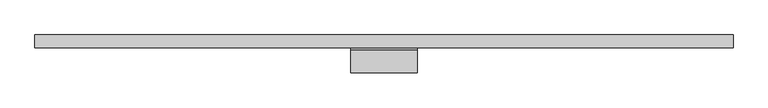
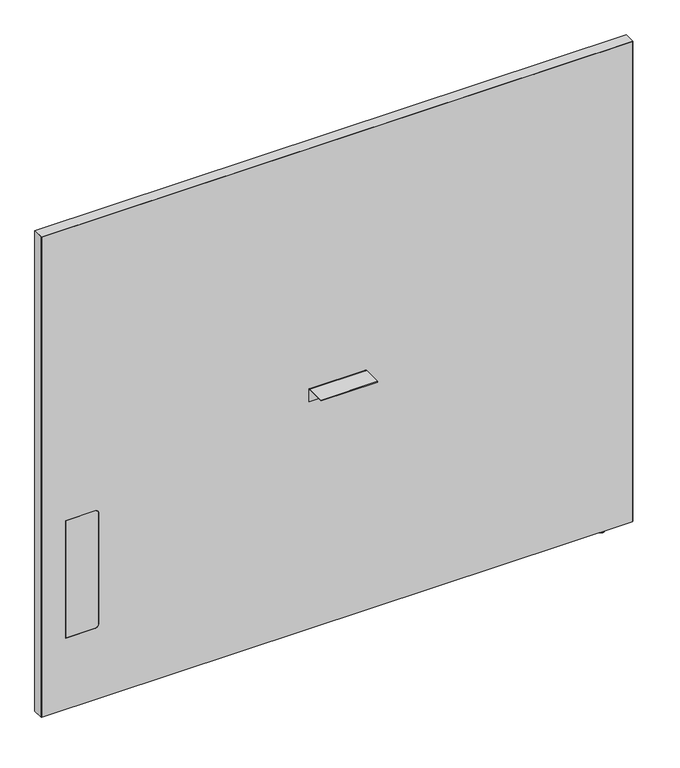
"""IFC4 building model written with IfcOpenShell, lengths in millimetres: furniture geometry, Steelcase - Answer Solution - Boundary Screen - Straight - Single Sided : 54H x 63W."""

import ifcopenshell
import ifcopenshell.guid

model = None  # the IFC model being written
_history = None  # IfcOwnerHistory: only IFC2X3 demands one
_inside = {}  # id of a spatial element -> (the spatial element, [elements in it])
_under = {}  # id of a project, library or spatial element -> (it, [spatial elements below it])
_declared = {}  # id of a project -> (the project, [libraries it declares])
_typed = {}  # id of a type object -> (the type object, [elements of that type])
_made_of = {}  # id of a material, layer set ... -> (it, [elements and type objects made of it])


def new_model(schema):
    """Start an empty IFC model of exactly this schema.

    Asked for "IFC4X3", IfcOpenShell would pick the latest addendum, in which some entities
    have other attributes; the version numbers below select the first issue.
    IFC2X3 requires an IfcOwnerHistory on every rooted entity: one is made here for all.
    """
    global model, _history
    if schema == "IFC4X3":
        model = ifcopenshell.file(schema_version=(4, 3, 0, 0))
    else:
        model = ifcopenshell.file(schema=schema)
    _inside.clear()
    _under.clear()
    _declared.clear()
    _typed.clear()
    _made_of.clear()
    _history = None
    if model.schema == "IFC2X3":
        org = make("IfcOrganization", Name="unknown")
        user = make(
            "IfcPersonAndOrganization",
            ThePerson=make("IfcPerson", FamilyName="unknown"),
            TheOrganization=org,
        )
        app = make(
            "IfcApplication",
            ApplicationDeveloper=org,
            Version="unknown",
            ApplicationFullName="unknown",
            ApplicationIdentifier="unknown",
        )
        _history = make(
            "IfcOwnerHistory",
            OwningUser=user,
            OwningApplication=app,
            ChangeAction="ADDED",
            CreationDate=0,
        )
    return model


def make(cls, **values):
    """One entity of the class cls with the attributes given. An attribute that is None is left unset."""
    return model.create_entity(
        cls, **{name: value for name, value in values.items() if value is not None}
    )


def rooted(cls, **values):
    """An entity with a GlobalId (a new one), such as an element, a storey or a relation."""
    return make(cls, GlobalId=ifcopenshell.guid.new(), OwnerHistory=_history, **values)


def si_unit(unit_type, name, prefix=None):
    """IfcSIUnit, for example si_unit("LENGTHUNIT", "METRE", prefix="MILLI")."""
    return make("IfcSIUnit", UnitType=unit_type, Prefix=prefix, Name=name)


def assignment(units):
    """IfcUnitAssignment: the units of a project."""
    return None if units is None else make("IfcUnitAssignment", Units=units)


def point(xyz):
    """IfcCartesianPoint."""
    return None if xyz is None else make("IfcCartesianPoint", Coordinates=xyz)


def direction(xyz):
    """IfcDirection."""
    return None if xyz is None else make("IfcDirection", DirectionRatios=xyz)


def frame(location, z_axis=None, x_axis=None):
    """IfcAxis2Placement3D, a coordinate frame: its origin and axes. An axis left out is left unset."""
    return make(
        "IfcAxis2Placement3D",
        Location=point(location),
        Axis=direction(z_axis),
        RefDirection=direction(x_axis),
    )


def frame_2d(location, x_axis=None):
    """IfcAxis2Placement2D, a coordinate frame in the plane: its origin and x axis."""
    return make(
        "IfcAxis2Placement2D", Location=point(location), RefDirection=direction(x_axis)
    )


def origin():
    """The frame at (0, 0, 0) with its axes left unset."""
    return frame((0.0, 0.0, 0.0))


def place(relative_to, where):
    """IfcLocalPlacement: puts the frame where relative to a parent placement (None: the world)."""
    return make(
        "IfcLocalPlacement", PlacementRelTo=relative_to, RelativePlacement=where
    )


def context(
    kind, dimensions, precision=None, world=None, true_north=None, identifier=None
):
    """IfcGeometricRepresentationContext, for example the 3D "Model" context."""
    return make(
        "IfcGeometricRepresentationContext",
        ContextIdentifier=identifier,
        ContextType=kind,
        CoordinateSpaceDimension=dimensions,
        Precision=precision,
        WorldCoordinateSystem=world,
        TrueNorth=true_north,
    )


def project(units=None, contexts=None):
    """IfcProject with its units and contexts."""
    return rooted(
        "IfcProject",
        Name="project",
        RepresentationContexts=contexts,
        UnitsInContext=assignment(units),
    )


def spatial(cls, under=None, at=None, **own):
    """A site, building, storey or space (cls), placed at a placement, below another one or the project."""
    s = rooted(cls, ObjectPlacement=at, **own)
    if under is not None:
        _under.setdefault(under.id(), (under, []))[1].append(s)
    return s


def polyline(points):
    """IfcPolyline through the points."""
    return make("IfcPolyline", Points=[point(p) for p in points])


def circle_curve(where, radius):
    """IfcCircle in the frame where."""
    return make("IfcCircle", Position=where, Radius=radius)


def ellipse_curve(where, semi_axis1, semi_axis2):
    """IfcEllipse in the frame where."""
    return make(
        "IfcEllipse", Position=where, SemiAxis1=semi_axis1, SemiAxis2=semi_axis2
    )


def trimmed(basis, trim1, trim2, sense, master):
    """IfcTrimmedCurve: the piece of a basis curve between two trims."""
    return make(
        "IfcTrimmedCurve",
        BasisCurve=basis,
        Trim1=trim1,
        Trim2=trim2,
        SenseAgreement=sense,
        MasterRepresentation=master,
    )


def segment(curve, same_sense, transition):
    """IfcCompositeCurveSegment."""
    return make(
        "IfcCompositeCurveSegment",
        Transition=transition,
        SameSense=same_sense,
        ParentCurve=curve,
    )


def composite_curve(segments, self_intersect=None):
    """IfcCompositeCurve: segments joined end to end."""
    return make("IfcCompositeCurve", Segments=segments, SelfIntersect=self_intersect)


def outline(outer, holes=None, kind="AREA"):
    """IfcArbitraryClosedProfileDef: a profile drawn as a closed curve; with holes, ...WithVoids."""
    if holes is None:
        return make("IfcArbitraryClosedProfileDef", ProfileType=kind, OuterCurve=outer)
    return make(
        "IfcArbitraryProfileDefWithVoids",
        ProfileType=kind,
        OuterCurve=outer,
        InnerCurves=holes,
    )


def extrude(swept, where, along, depth):
    """IfcExtrudedAreaSolid: the profile swept, set in the frame where, extruded along a direction by depth."""
    return make(
        "IfcExtrudedAreaSolid",
        SweptArea=swept,
        Position=where,
        ExtrudedDirection=direction(along),
        Depth=depth,
    )


def shape(context_of_items, identifier, shape_type, items):
    """IfcShapeRepresentation: the items that make up one representation, for example the "Body"."""
    return make(
        "IfcShapeRepresentation",
        ContextOfItems=context_of_items,
        RepresentationIdentifier=identifier,
        RepresentationType=shape_type,
        Items=items,
    )


def source(mapping_origin, context_of_items, identifier, shape_type, items):
    """IfcRepresentationMap: a shape defined once, which mapped items show again and again."""
    return make(
        "IfcRepresentationMap",
        MappingOrigin=mapping_origin,
        MappedRepresentation=shape(context_of_items, identifier, shape_type, items),
    )


def transform(
    local_origin,
    x_axis=None,
    y_axis=None,
    z_axis=None,
    scale=None,
    scale2=None,
    scale3=None,
    uniform=True,
):
    """IfcCartesianTransformationOperator3D, or its non-uniform kind. x_axis, y_axis, z_axis: its Axis1, 2, 3."""
    if uniform:
        return make(
            "IfcCartesianTransformationOperator3D",
            Axis1=direction(x_axis),
            Axis2=direction(y_axis),
            LocalOrigin=point(local_origin),
            Scale=scale,
            Axis3=direction(z_axis),
        )
    return make(
        "IfcCartesianTransformationOperator3DnonUniform",
        Axis1=direction(x_axis),
        Axis2=direction(y_axis),
        LocalOrigin=point(local_origin),
        Scale=scale,
        Axis3=direction(z_axis),
        Scale2=scale2,
        Scale3=scale3,
    )


def mapped(mapping_source, mapping_target):
    """IfcMappedItem: shows the shape of a source again, moved by a transform."""
    return make(
        "IfcMappedItem", MappingSource=mapping_source, MappingTarget=mapping_target
    )


def made_of(thing, what):
    """Note that an element or type object is made of a material, layer set ...; save() writes the relation."""
    if what is not None:
        _made_of.setdefault(what.id(), (what, []))[1].append(thing)
    return thing


def element(
    cls,
    number,
    at=None,
    inside=None,
    cuts=None,
    type_object=None,
    material=None,
    context=None,
    identifier="Body",
    shape_type=None,
    held_by="IfcProductDefinitionShape",
    body=None,
    shapes=None,
    **own,
):
    """One element of the class cls, such as IfcWall. Its Tag is "e" and its number.

    at: its placement. inside: the storey or other place that contains it. cuts: it is an
    opening in that element (IfcRelVoidsElement). A single representation is given by context,
    identifier, shape_type and body (its items); several are given by shapes. held_by: the class
    of the entity that holds the representations. save() writes the other relations.
    """
    e = rooted(cls, Tag="e%d" % number, ObjectPlacement=at, **own)
    if body is not None:
        shapes = [shape(context, identifier, shape_type, body)]
    if shapes is not None:
        e.Representation = make(held_by, Representations=shapes)
    if inside is not None:
        _inside.setdefault(inside.id(), (inside, []))[1].append(e)
    if cuts is not None:
        rooted(
            "IfcRelVoidsElement", RelatingBuildingElement=cuts, RelatedOpeningElement=e
        )
    if type_object is not None:
        _typed.setdefault(type_object.id(), (type_object, []))[1].append(e)
    return made_of(e, material)


def aggregate(whole, parts):
    """IfcRelAggregates: a whole, such as a stair, and the parts it consists of."""
    return rooted("IfcRelAggregates", RelatingObject=whole, RelatedObjects=parts)


def save(model, path):
    """Write the relations noted so far, then the file.

    IfcRelAggregates (storeys below a building ...), IfcRelContainedInSpatialStructure (elements
    in a storey), IfcRelDefinesByType, IfcRelAssociatesMaterial and IfcRelDeclares: one each for
    every whole, place, type object, material and project.
    """
    for whole, parts in _under.values():
        aggregate(whole, parts)
    for where, things in _inside.values():
        rooted(
            "IfcRelContainedInSpatialStructure",
            RelatedElements=things,
            RelatingStructure=where,
        )
    for kind, things in _typed.values():
        rooted("IfcRelDefinesByType", RelatedObjects=things, RelatingType=kind)
    for what, things in _made_of.values():
        rooted("IfcRelAssociatesMaterial", RelatedObjects=things, RelatingMaterial=what)
    for by, libraries in _declared.values():
        rooted("IfcRelDeclares", RelatingContext=by, RelatedDefinitions=libraries)
    model.write(path)


def plane_surface(at):
    """IfcPlane: the flat surface through the origin of the frame at, square to its z axis."""
    return make("IfcPlane", Position=at)


def cylinder_surface(at, radius):
    """IfcCylindricalSurface: all points at the distance radius from the z axis of the frame at."""
    return make("IfcCylindricalSurface", Position=at, Radius=radius)


def revolved_surface(curve, axis_point, axis_direction):
    """IfcSurfaceOfRevolution: the curve turned about the line through axis_point along axis_direction."""
    return make(
        "IfcSurfaceOfRevolution",
        SweptCurve=make("IfcArbitraryOpenProfileDef", ProfileType="CURVE", Curve=curve),
        AxisPosition=make("IfcAxis1Placement", Location=point(axis_point), Axis=direction(axis_direction)),
    )


def advanced_brep(points, edges, surfaces, faces):
    """IfcAdvancedBrep: a solid bounded by faces that lie on surfaces and meet in shared edges.

    An edge is (start, end): straight between two places in points (the first is 0);
    or (start, end, curve); or (start, end, curve, False) where it runs against its curve.
    A face is (place in surfaces, loops), or (place, loops, False) where it looks against
    its surface's normal. A loop lists edges by number (the first is 1), with a minus sign
    where the edge is run from its end to its start. The first loop is the outer one.
    """
    corners = [point(p) for p in points]
    vertices = [make("IfcVertexPoint", VertexGeometry=c) for c in corners]
    made = []
    for start, end, *more in edges:
        made.append(
            make(
                "IfcEdgeCurve",
                EdgeStart=vertices[start],
                EdgeEnd=vertices[end],
                EdgeGeometry=more[0] if more else make("IfcPolyline", Points=[corners[start], corners[end]]),
                SameSense=more[1] if len(more) > 1 else True,
            )
        )
    hull = []
    for where, loops, *sense in faces:
        bounds = []
        for j, loop in enumerate(loops):
            ring = [make("IfcOrientedEdge", EdgeElement=made[abs(k) - 1], Orientation=k > 0) for k in loop]
            bounds.append(
                make(
                    "IfcFaceOuterBound" if j == 0 else "IfcFaceBound",
                    Bound=make("IfcEdgeLoop", EdgeList=ring),
                    Orientation=True,
                )
            )
        hull.append(make("IfcAdvancedFace", Bounds=bounds, FaceSurface=surfaces[where], SameSense=sense[0] if sense else True))
    return make("IfcAdvancedBrep", Outer=make("IfcClosedShell", CfsFaces=hull))


def furniture_692955da(model_context):
    return source(origin(), model_context, "Body", "SolidModel", [
        extrude(outline(composite_curve([segment(polyline([(-86.8398151, 696.4680019), (-86.8398151, 698.5), (-34.9450855, 698.5)]), True, "CONTINUOUS"), segment(trimmed(circle_curve(frame_2d((-34.9450855, 693.2447477)), 5.2552523), [point((-34.9450855, 698.5))], [point((-29.6898332, 693.2447477))], False, "CARTESIAN"), True, "CONTINUOUS"), segment(polyline([(-29.6898332, 693.2447477), (-29.6898332, 660.4), (-31.7218162, 660.4), (-31.7218162, 693.0058743)]), True, "CONTINUOUS"), segment(trimmed(circle_curve(frame_2d((-35.1839438, 693.0058743)), 3.4621276), [point((-31.7218162, 693.0058743))], [point((-35.1839438, 696.4680019))], True, "CARTESIAN"), True, "CONTINUOUS"), segment(polyline([(-35.1839438, 696.4680019), (-86.8398151, 696.4680019)]), True, "CONTINUOUS")], self_intersect=False)), frame((77.4191407, 0.0, 0.0), z_axis=(1.0, 0.0, 0.0), x_axis=(0.0, 1.0, 0.0)), (0.0, 0.0, 1.0), 152.4000969),
        advanced_brep(
        [(876.5286488, -23.7588726, 9.9059849), (876.5286488, -5.9309607, 9.9059849), (876.5286488, -14.8449166, 9.9059849), (876.5286488, -23.7588726, 2.9673238), (876.5286488, -5.9309607, 2.9673238), (876.5286488, -22.7915354, 2.9673238), (876.5286488, -6.8982978, 2.9673238), (876.5286488, -22.7915354, 1.6569081), (876.5286488, -6.8982978, 1.6569081), (876.5286488, -21.1346274, 0.0), (876.5286488, -8.5552059, 0.0), (876.5286488, -14.8449166, 0.0)],
        [
            (0, 1, circle_curve(frame((876.5286488, -14.8449166, 9.9059849), z_axis=(0.0, 0.0, 1.0), x_axis=(0.0, 1.0, 0.0)), 8.913956)),
            (1, 2),
            (2, 0),
            (1, 0, circle_curve(frame((876.5286488, -14.8449166, 9.9059849), z_axis=(0.0, 0.0, 1.0), x_axis=(0.0, 1.0, 0.0)), 8.913956)),
            (3, 4, circle_curve(frame((876.5286488, -14.8449166, 2.9673238), z_axis=(0.0, 0.0, 1.0), x_axis=(0.0, 1.0, 0.0)), 8.913956)),
            (4, 1),
            (0, 3),
            (4, 3, circle_curve(frame((876.5286488, -14.8449166, 2.9673238), z_axis=(0.0, 0.0, 1.0), x_axis=(0.0, 1.0, 0.0)), 8.913956)),
            (5, 6, circle_curve(frame((876.5286488, -14.8449166, 2.9673238), z_axis=(0.0, 0.0, 1.0), x_axis=(0.0, 1.0, 0.0)), 7.9466188)),
            (6, 4),
            (3, 5),
            (6, 5, circle_curve(frame((876.5286488, -14.8449166, 2.9673238), z_axis=(0.0, 0.0, 1.0), x_axis=(0.0, 1.0, 0.0)), 7.9466188)),
            (7, 8, circle_curve(frame((876.5286488, -14.8449166, 1.6569081), z_axis=(0.0, 0.0, 1.0), x_axis=(0.0, 1.0, 0.0)), 7.9466188)),
            (8, 6),
            (5, 7),
            (8, 7, circle_curve(frame((876.5286488, -14.8449166, 1.6569081), z_axis=(0.0, 0.0, 1.0), x_axis=(0.0, 1.0, 0.0)), 7.9466188)),
            (9, 10, circle_curve(frame((876.5286488, -14.8449166, 0.0), z_axis=(0.0, 0.0, 1.0), x_axis=(0.0, 1.0, 0.0)), 6.2897107)),
            (10, 8, circle_curve(frame((876.5286488, -8.5552059, 1.6569081), z_axis=(1.0, 0.0, 0.0), x_axis=(0.0, 1.0, 0.0)), 1.6569081)),
            (7, 9, circle_curve(frame((876.5286488, -21.1346274, 1.6569081), z_axis=(1.0, 0.0, 0.0), x_axis=(0.0, -1.0, 0.0)), 1.6569081)),
            (10, 9, circle_curve(frame((876.5286488, -14.8449166, 0.0), z_axis=(0.0, 0.0, 1.0), x_axis=(0.0, 1.0, 0.0)), 6.2897107)),
            (11, 10),
            (9, 11),
        ],
        [
            plane_surface(frame((876.5286488, -14.8449166, 9.9059849), z_axis=(0.0, 0.0, 1.0), x_axis=(0.0, 1.0, 0.0))),
            cylinder_surface(frame((876.5286488, -14.8449166, 9.9059849), z_axis=(0.0, 0.0, -1.0), x_axis=(0.0, 1.0, 0.0)), 8.913956),
            plane_surface(frame((876.5286488, -14.8449166, 2.9673238), z_axis=(0.0, 0.0, -1.0), x_axis=(0.0, 1.0, 0.0))),
            cylinder_surface(frame((876.5286488, -14.8449166, 9.9059849), z_axis=(0.0, 0.0, -1.0), x_axis=(0.0, 1.0, 0.0)), 7.9466188),
            revolved_surface(trimmed(ellipse_curve(frame((876.5286488, -8.5552059, 1.6569081), z_axis=(-1.0, 0.0, 0.0), x_axis=(0.0, 1.0, 0.0)), 1.6569081, 1.6569081), [point((876.5286488, -6.8982978, 1.6569081))], [point((876.5286488, -8.5552059, 0.0))], True, "CARTESIAN"), (876.5286488, -14.8449166, 9.9059849), (0.0, 0.0, -1.0)),
            plane_surface(frame((876.5286488, -14.8449166, 0.0), z_axis=(0.0, 0.0, -1.0), x_axis=(0.0, 1.0, 0.0))),
        ],
        [
            (0, [[1, 2, 3]]),
            (0, [[4, -3, -2]]),
            (1, [[5, 6, -1, 7]]),
            (1, [[8, -7, -4, -6]]),
            (2, [[9, 10, -5, 11]]),
            (2, [[12, -11, -8, -10]]),
            (3, [[13, 14, -9, 15]]),
            (3, [[16, -15, -12, -14]]),
            (4, [[17, 18, -13, 19]]),
            (4, [[20, -19, -16, -18]]),
            (5, [[21, -17, 22]]),
            (5, [[-22, -20, -21]]),
        ],
    ),
        advanced_brep(
        [(952.6780168, 0.0, 1381.542118), (952.6780168, 0.0, 9.9059849), (-645.4902221, 0.0, 9.9059849), (-645.4902221, 0.0, 1381.542118), (952.6780168, -29.6898332, 1381.542118), (-645.4902221, -29.6898332, 1381.542118), (-645.4902221, -29.6898332, 9.9059849), (952.6780168, -29.6898332, 9.9059849), (-501.1463873, -29.6898332, 549.6162029), (-490.9863873, -29.6898332, 539.4562029), (-490.9863873, -29.6898332, 223.9362137), (-501.1463873, -29.6898332, 213.7762137), (-580.800285, -29.6898332, 213.7762137), (-580.800285, -29.6898332, 549.6162029), (-580.800285, -29.0550397, 549.6162029), (-501.1463873, -29.0550397, 549.6162029), (-580.800285, -29.0550397, 213.7762137), (-501.1463873, -29.0550397, 213.7762137), (-490.9863873, -29.0550397, 223.9362137), (-490.9863873, -29.0550397, 539.4562029)],
        [
            (0, 1),
            (1, 2),
            (2, 3),
            (3, 0),
            (4, 5),
            (5, 6),
            (6, 7),
            (7, 4),
            (8, 9, circle_curve(frame((-501.1463873, -29.6898332, 539.4562029), z_axis=(0.0, 1.0, 0.0), x_axis=(0.0, 0.0, 1.0)), 10.16)),
            (9, 10),
            (10, 11, circle_curve(frame((-501.1463873, -29.6898332, 223.9362137), z_axis=(0.0, 1.0, 0.0), x_axis=(0.0, 0.0, 1.0)), 10.16)),
            (11, 12),
            (12, 13),
            (13, 8),
            (0, 4),
            (7, 1),
            (6, 2),
            (5, 3),
            (13, 14),
            (14, 15),
            (15, 8),
            (12, 16),
            (16, 14),
            (11, 17),
            (17, 16),
            (10, 18),
            (18, 17, circle_curve(frame((-501.1463873, -29.0550397, 223.9362137), z_axis=(0.0, 1.0, 0.0), x_axis=(0.0, 0.0, 1.0)), 10.16)),
            (9, 19),
            (19, 18),
            (15, 19, circle_curve(frame((-501.1463873, -29.0550397, 539.4562029), z_axis=(0.0, 1.0, 0.0), x_axis=(0.0, 0.0, 1.0)), 10.16)),
        ],
        [
            plane_surface(frame((952.6780168, 0.0, 1381.542118), z_axis=(0.0, 1.0, 0.0), x_axis=(0.0, 0.0, -1.0))),
            plane_surface(frame((952.6780168, -29.6898332, 1381.542118), z_axis=(0.0, -1.0, 0.0), x_axis=(0.0, 0.0, 1.0))),
            plane_surface(frame((952.6780168, 0.0, 1381.542118), z_axis=(1.0, 0.0, 0.0), x_axis=(0.0, -1.0, 0.0))),
            plane_surface(frame((952.6780168, 0.0, 9.9059849), z_axis=(0.0, 0.0, -1.0), x_axis=(0.0, -1.0, 0.0))),
            plane_surface(frame((-645.4902221, 0.0, 9.9059849), z_axis=(-1.0, 0.0, 0.0), x_axis=(0.0, -1.0, 0.0))),
            plane_surface(frame((-645.4902221, 0.0, 1381.542118), z_axis=(0.0, 0.0, 1.0), x_axis=(0.0, -1.0, 0.0))),
            plane_surface(frame((-501.1463873, 0.0, 549.6162029), z_axis=(0.0, 0.0, -1.0), x_axis=(0.0, -1.0, 0.0))),
            plane_surface(frame((-580.800285, 0.0, 549.6162029), z_axis=(1.0, 0.0, 0.0), x_axis=(0.0, -1.0, 0.0))),
            plane_surface(frame((-580.800285, 0.0, 213.7762137), z_axis=(0.0, 0.0, 1.0), x_axis=(0.0, -1.0, 0.0))),
            revolved_surface(polyline([(-501.1463873, -29.6898332, 234.0962137), (-501.1463873, -29.0550397, 234.0962137)]), (-501.1463873, -29.6898332, 223.9362137), (0.0, -1.0, 0.0)),
            plane_surface(frame((-490.9863873, 0.0, 223.9362137), z_axis=(-1.0, 0.0, 0.0), x_axis=(0.0, -1.0, 0.0))),
            revolved_surface(polyline([(-501.1463873, -29.6898332, 549.6162029), (-501.1463873, -29.0550397, 549.6162029)]), (-501.1463873, -29.6898332, 539.4562029), (0.0, -1.0, 0.0)),
            plane_surface(frame((-490.9863873, -29.0550397, 629.172953), z_axis=(0.0, -1.0, 0.0), x_axis=(0.0, 0.0, 1.0))),
        ],
        [
            (0, [[1, 2, 3, 4]]),
            (1, [[5, 6, 7, 8], [9, 10, 11, 12, 13, 14]]),
            (2, [[-1, 15, -8, 16]]),
            (3, [[-2, -16, -7, 17]]),
            (4, [[-3, -17, -6, 18]]),
            (5, [[-4, -18, -5, -15]]),
            (6, [[-14, 19, 20, 21]]),
            (7, [[-13, 22, 23, -19]]),
            (8, [[-12, 24, 25, -22]]),
            (9, [[-11, 26, 27, -24]]),
            (10, [[-10, 28, 29, -26]]),
            (11, [[-9, -21, 30, -28]]),
            (12, [[-20, -23, -25, -27, -29, -30]]),
        ],
    ),
        extrude(outline(composite_curve([segment(polyline([(549.6162029, -501.1463873), (549.6162029, -580.800285), (213.7762137, -580.800285), (213.7762137, -501.1463873)]), True, "CONTINUOUS"), segment(trimmed(circle_curve(frame_2d((223.9362137, -501.1463873)), 10.16), [point((213.7762137, -501.1463873))], [point((223.9362137, -490.9863873))], False, "CARTESIAN"), True, "CONTINUOUS"), segment(polyline([(223.9362137, -490.9863873), (539.4562029, -490.9863873)]), True, "CONTINUOUS"), segment(trimmed(circle_curve(frame_2d((539.4562029, -501.1463873)), 10.16), [point((539.4562029, -490.9863873))], [point((549.6162029, -501.1463873))], False, "CARTESIAN"), True, "CONTINUOUS")], self_intersect=False)), frame((0.0, -29.6898332, 0.0), z_axis=(0.0, 1.0, 0.0), x_axis=(0.0, 0.0, 1.0)), (0.0, 0.0, 1.0), 0.6347935),
        extrude(outline(polyline([(1382.522, 953.7191891), (1382.522, -646.4808109), (9.9059849, -646.4808109), (9.9059849, -645.4902221), (1381.542118, -645.4902221), (1381.542118, 952.6780168), (9.9059849, 952.6780168), (9.9059849, 953.7191891), (1382.522, 953.7191891)])), frame((0.0, -29.6898332, 0.0), z_axis=(0.0, 1.0, 0.0), x_axis=(0.0, 0.0, 1.0)), (0.0, 0.0, 1.0), 29.6898332),
    ])


if __name__ == "__main__":
    model = new_model("IFC4")
    model_context = context("Model", 3, world=origin())
    ifc_project = project(units=[si_unit("LENGTHUNIT", "METRE", prefix="MILLI")], contexts=[model_context])
    site = spatial("IfcSite", under=ifc_project)
    building = spatial("IfcBuilding", under=site)
    placement = place(None, origin())
    furniture_shape = furniture_692955da(model_context)
    element("IfcFurniture", 1, ObjectType="Steelcase - Answer Solution - Boundary Screen - Straight - Single Sided : 54H x 63W", at=placement, inside=building, context=model_context, shape_type="MappedRepresentation", body=[
        mapped(furniture_shape, transform((0.0, 0.0, 0.0), x_axis=(1.0, 0.0, 0.0), y_axis=(0.0, 1.0, 0.0), z_axis=(0.0, 0.0, 1.0))),
    ])
    save(model, "model.ifc")
